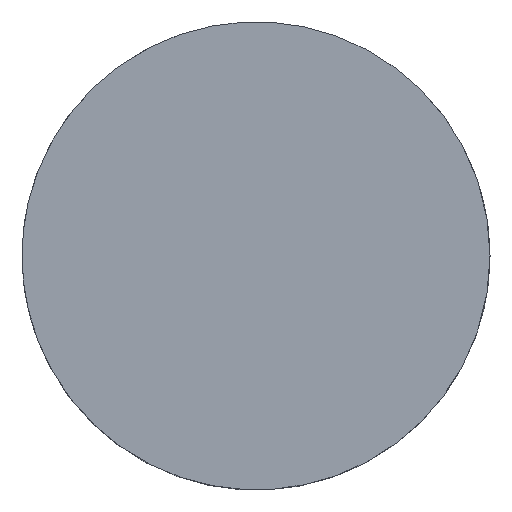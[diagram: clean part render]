
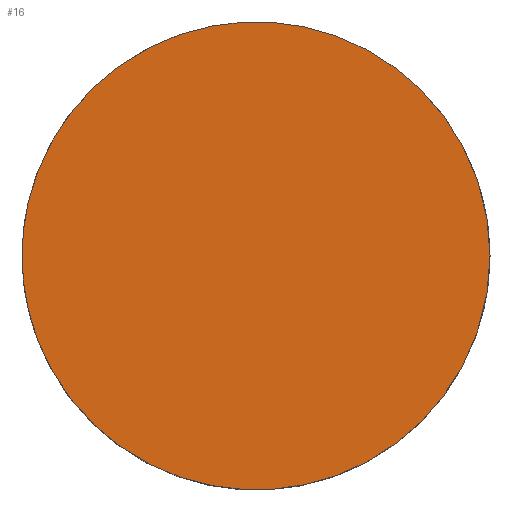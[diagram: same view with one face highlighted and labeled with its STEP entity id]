
A CAD part, top view. The second image highlights one B-rep face of the part: STEP entity #16.
In plain terms, the highlighted free-form (B-spline) face has degree [1, 1] with [2, 2] control points.
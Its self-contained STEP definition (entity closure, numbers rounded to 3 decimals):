
#16=ADVANCED_FACE('',(#29),#333,.T.);
#29=FACE_OUTER_BOUND('',#42,.T.);
#42=EDGE_LOOP('',(#59,#60));
#59=ORIENTED_EDGE('',*,*,#269,.T.);
#60=ORIENTED_EDGE('',*,*,#268,.F.);
#106=PCURVE('',#336,#154);
#107=PCURVE('',#333,#155);
#108=PCURVE('',#333,#156);
#131=PCURVE('',#341,#179);
#154=DEFINITIONAL_REPRESENTATION('',(#202),#993);
#155=DEFINITIONAL_REPRESENTATION('',(#294),#993);
#156=DEFINITIONAL_REPRESENTATION('',(#295),#993);
#179=DEFINITIONAL_REPRESENTATION('',(#221),#993);
#202=B_SPLINE_CURVE_WITH_KNOTS('',1,(#680,#681),.UNSPECIFIED.,.F.,.F.,(2,
2),(-75.398,-37.699),.UNSPECIFIED.);
#221=B_SPLINE_CURVE_WITH_KNOTS('',1,(#935,#936),.UNSPECIFIED.,.F.,.F.,(2,
2),(0.,37.699),.UNSPECIFIED.);
#244=SURFACE_CURVE('',#292,(#106,#108),.PCURVE_S1.);
#245=SURFACE_CURVE('',#293,(#107,#131),.PCURVE_S1.);
#268=EDGE_CURVE('',#319,#326,#244,.T.);
#269=EDGE_CURVE('',#319,#326,#245,.T.);
#292=(
BOUNDED_CURVE()
B_SPLINE_CURVE(2,(#675,#676,#677,#678,#679),.UNSPECIFIED.,.F.,.F.)
B_SPLINE_CURVE_WITH_KNOTS((3,2,3),(-75.398,-56.549,-37.699),
 .UNSPECIFIED.)
CURVE()
GEOMETRIC_REPRESENTATION_ITEM()
RATIONAL_B_SPLINE_CURVE((1.,0.707,1.,0.707,1.))
REPRESENTATION_ITEM('')
);
#293=(
BOUNDED_CURVE()
B_SPLINE_CURVE(2,(#682,#683,#684,#685,#686),.UNSPECIFIED.,.F.,.F.)
B_SPLINE_CURVE_WITH_KNOTS((3,2,3),(0.,18.85,37.699),
 .UNSPECIFIED.)
CURVE()
GEOMETRIC_REPRESENTATION_ITEM()
RATIONAL_B_SPLINE_CURVE((1.,0.707,1.,0.707,1.))
REPRESENTATION_ITEM('')
);
#294=(
BOUNDED_CURVE()
B_SPLINE_CURVE(2,(#687,#688,#689,#690,#691),.UNSPECIFIED.,.F.,.F.)
B_SPLINE_CURVE_WITH_KNOTS((3,2,3),(0.,18.85,37.699),
 .UNSPECIFIED.)
CURVE()
GEOMETRIC_REPRESENTATION_ITEM()
RATIONAL_B_SPLINE_CURVE((1.,0.707,1.,0.707,1.))
REPRESENTATION_ITEM('')
);
#295=(
BOUNDED_CURVE()
B_SPLINE_CURVE(2,(#692,#693,#694,#695,#696),.UNSPECIFIED.,.F.,.F.)
B_SPLINE_CURVE_WITH_KNOTS((3,2,3),(-75.398,-56.549,-37.699),
 .UNSPECIFIED.)
CURVE()
GEOMETRIC_REPRESENTATION_ITEM()
RATIONAL_B_SPLINE_CURVE((1.,0.707,1.,0.707,1.))
REPRESENTATION_ITEM('')
);
#319=VERTEX_POINT('',#646);
#326=VERTEX_POINT('',#653);
#333=B_SPLINE_SURFACE_WITH_KNOTS('',1,1,((#450,#451),(#452,#453)),
 .UNSPECIFIED.,.F.,.F.,.F.,(2,2),(2,2),(-15.,15.),(-3.,27.),
 .UNSPECIFIED.);
#336=(
BOUNDED_SURFACE()
B_SPLINE_SURFACE(2,1,((#440,#441),(#442,#443),(#444,#445),(#446,#447),(#448,
#449)),.UNSPECIFIED.,.F.,.F.,.F.)
B_SPLINE_SURFACE_WITH_KNOTS((3,2,3),(2,2),(-75.398,-56.549,
-37.699),(0.,10.),.UNSPECIFIED.)
GEOMETRIC_REPRESENTATION_ITEM()
RATIONAL_B_SPLINE_SURFACE(((1.,1.),(0.707,0.707),
(1.,1.),(0.707,0.707),(1.,1.)))
REPRESENTATION_ITEM('')
SURFACE()
);
#341=(
BOUNDED_SURFACE()
B_SPLINE_SURFACE(2,1,((#549,#550),(#551,#552),(#553,#554),(#555,#556),(#557,
#558)),.UNSPECIFIED.,.F.,.F.,.F.)
B_SPLINE_SURFACE_WITH_KNOTS((3,2,3),(2,2),(-37.699,-18.85,
0.),(0.,10.),.UNSPECIFIED.)
GEOMETRIC_REPRESENTATION_ITEM()
RATIONAL_B_SPLINE_SURFACE(((1.,1.),(0.707,0.707),
(1.,1.),(0.707,0.707),(1.,1.)))
REPRESENTATION_ITEM('')
SURFACE()
);
#440=CARTESIAN_POINT('',(12.,0.,13.));
#441=CARTESIAN_POINT('',(12.,0.,3.));
#442=CARTESIAN_POINT('',(12.,-12.,13.));
#443=CARTESIAN_POINT('',(12.,-12.,3.));
#444=CARTESIAN_POINT('',(0.,-12.,13.));
#445=CARTESIAN_POINT('',(0.,-12.,3.));
#446=CARTESIAN_POINT('',(-12.,-12.,13.));
#447=CARTESIAN_POINT('',(-12.,-12.,3.));
#448=CARTESIAN_POINT('',(-12.,0.,13.));
#449=CARTESIAN_POINT('',(-12.,0.,3.));
#450=CARTESIAN_POINT('',(15.,-15.,13.));
#451=CARTESIAN_POINT('',(-15.,-15.,13.));
#452=CARTESIAN_POINT('',(15.,15.,13.));
#453=CARTESIAN_POINT('',(-15.,15.,13.));
#549=CARTESIAN_POINT('',(-12.,0.,13.));
#550=CARTESIAN_POINT('',(-12.,0.,3.));
#551=CARTESIAN_POINT('',(-12.,12.,13.));
#552=CARTESIAN_POINT('',(-12.,12.,3.));
#553=CARTESIAN_POINT('',(0.,12.,13.));
#554=CARTESIAN_POINT('',(0.,12.,3.));
#555=CARTESIAN_POINT('',(12.,12.,13.));
#556=CARTESIAN_POINT('',(12.,12.,3.));
#557=CARTESIAN_POINT('',(12.,0.,13.));
#558=CARTESIAN_POINT('',(12.,0.,3.));
#646=CARTESIAN_POINT('',(12.,0.,13.));
#653=CARTESIAN_POINT('',(-12.,0.,13.));
#675=CARTESIAN_POINT('',(12.,0.,13.));
#676=CARTESIAN_POINT('',(12.,-12.,13.));
#677=CARTESIAN_POINT('',(0.,-12.,13.));
#678=CARTESIAN_POINT('',(-12.,-12.,13.));
#679=CARTESIAN_POINT('',(-12.,0.,13.));
#680=CARTESIAN_POINT('',(-75.398,0.));
#681=CARTESIAN_POINT('',(-37.699,0.));
#682=CARTESIAN_POINT('',(12.,0.,13.));
#683=CARTESIAN_POINT('',(12.,12.,13.));
#684=CARTESIAN_POINT('',(0.,12.,13.));
#685=CARTESIAN_POINT('',(-12.,12.,13.));
#686=CARTESIAN_POINT('',(-12.,0.,13.));
#687=CARTESIAN_POINT('',(0.,0.));
#688=CARTESIAN_POINT('',(12.,0.));
#689=CARTESIAN_POINT('',(12.,12.));
#690=CARTESIAN_POINT('',(12.,24.));
#691=CARTESIAN_POINT('',(0.,24.));
#692=CARTESIAN_POINT('',(0.,0.));
#693=CARTESIAN_POINT('',(-12.,0.));
#694=CARTESIAN_POINT('',(-12.,12.));
#695=CARTESIAN_POINT('',(-12.,24.));
#696=CARTESIAN_POINT('',(0.,24.));
#935=CARTESIAN_POINT('',(0.,0.));
#936=CARTESIAN_POINT('',(-37.699,0.));
#993=(
GEOMETRIC_REPRESENTATION_CONTEXT(2)
PARAMETRIC_REPRESENTATION_CONTEXT()
REPRESENTATION_CONTEXT('pspace','')
);
